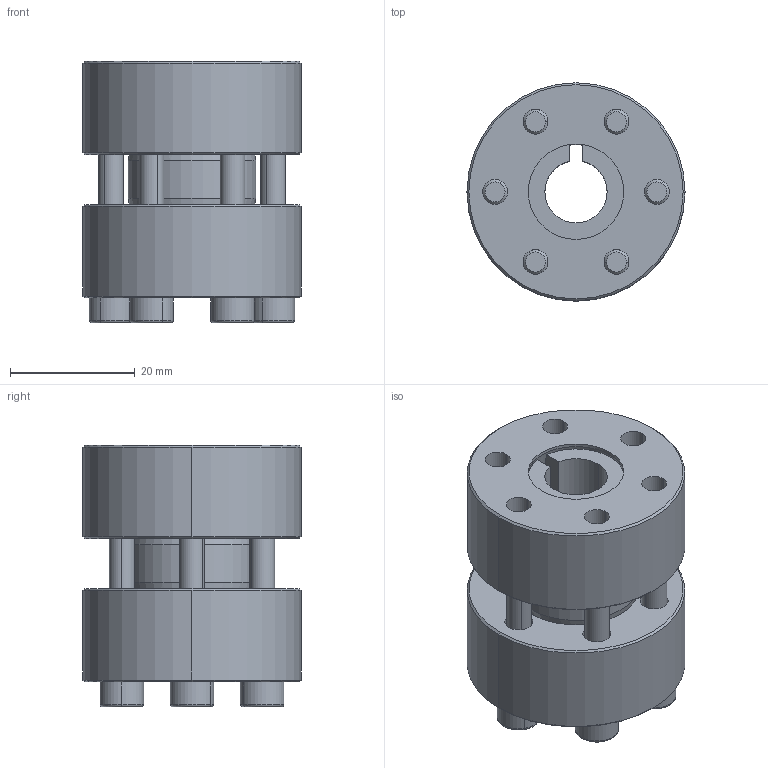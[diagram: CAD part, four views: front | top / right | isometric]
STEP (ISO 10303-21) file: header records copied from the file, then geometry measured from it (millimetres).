
FILE_DESCRIPTION (( 'STEP AP214' ), '1' );
FILE_NAME ('CONEX-M-10x35-M-001.step', '2014-07-01T12:12:15', ( 'Pc' ), ( '' ), 'SwSTEP 2.0', 'SolidWorks 2013', '' );
FILE_SCHEMA (( 'AUTOMOTIVE_DESIGN' ));
Length unit declared in the file: millimetre
Products named in the file (1): CONEX-M-10x35-M-001
Bounding box: 35 x 35 x 42.02 mm (x, y, z)
Volume: 28479.2 mm3; surface area: 16750.2 mm2
Topology: 9 solids, 9 shells, 226 faces, 506 edges, 298 vertices
Faces by surface type: plane 98, cylinder 62, cone 42, torus 24
Entity records: 8822 total; most frequent: DIRECTION 1182, CARTESIAN_POINT 1037, ORIENTED_EDGE 988, EDGE_CURVE 494, AXIS2_PLACEMENT_3D 465, VERTEX_POINT 298, EDGE_LOOP 266, LINE 252
